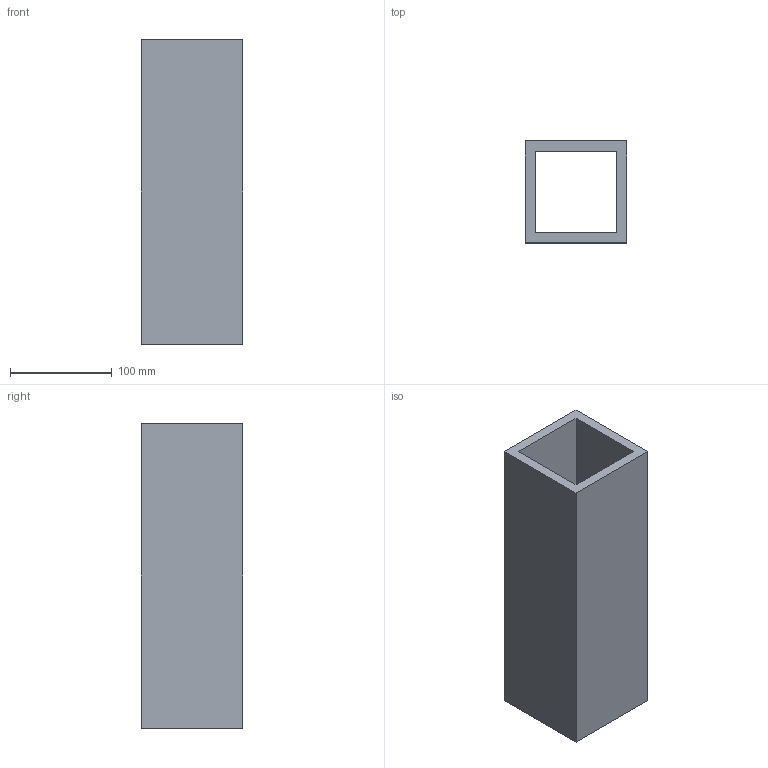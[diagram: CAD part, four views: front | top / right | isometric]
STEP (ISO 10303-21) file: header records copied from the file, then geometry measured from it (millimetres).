
FILE_DESCRIPTION(('Open CASCADE Model'),'2;1');
FILE_NAME('Open CASCADE Shape Model','2026-10-15T15:10:05',('Author'),( 'Open CASCADE'),'Open CASCADE STEP processor 8.0','Open CASCADE 8.0' ,'Unknown');
FILE_SCHEMA(('AUTOMOTIVE_DESIGN { 1 0 10303 214 1 1 1 1 }'));
Length unit declared in the file: millimetre
Products named in the file (1): TC03_BRAZO_SHS100x100x10_S355_L300_P05 137
Bounding box: 100 x 100 x 300 mm (x, y, z)
Volume: 1080000 mm3; surface area: 223200 mm2
Topology: 1 solids, 1 shells, 10 faces, 24 edges, 16 vertices
Faces by surface type: plane 10
Entity records: 614 total; most frequent: CARTESIAN_POINT 99, DIRECTION 94, LINE 72, VECTOR 72, ORIENTED_EDGE 48, PCURVE 48, DEFINITIONAL_REPRESENTATION 48, EDGE_CURVE 24
